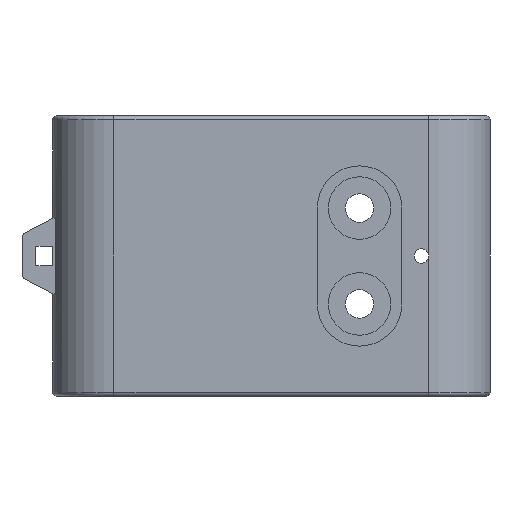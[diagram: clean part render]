
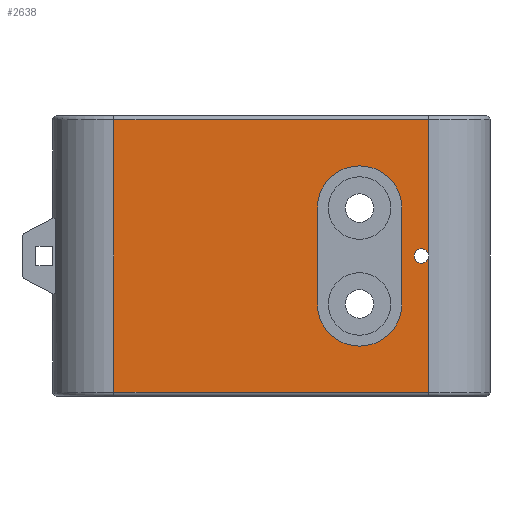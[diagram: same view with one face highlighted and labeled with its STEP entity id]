
A CAD part, front view. The second image highlights one B-rep face of the part: STEP entity #2638.
In plain terms, the highlighted planar face has unit normal (0, -1, 0).
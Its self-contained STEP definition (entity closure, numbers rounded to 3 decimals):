
#1 = DIRECTION ( 'NONE',  ( 0., 0., -1. ) ) ;
#19 = CARTESIAN_POINT ( 'NONE',  ( -20.516, -7.5, -18.25 ) ) ;
#33 = CARTESIAN_POINT ( 'NONE',  ( 6., -7.5, -6.25 ) ) ;
#34 = ORIENTED_EDGE ( 'NONE', *, *, #1594, .T. ) ;
#70 = CARTESIAN_POINT ( 'NONE',  ( 18.6, -7.5, 0. ) ) ;
#84 = VERTEX_POINT ( 'NONE', #70 ) ;
#88 = DIRECTION ( 'NONE',  ( 0., -1., 0. ) ) ;
#120 = PLANE ( 'NONE',  #616 ) ;
#157 = VERTEX_POINT ( 'NONE', #2644 ) ;
#186 = EDGE_LOOP ( 'NONE', ( #2580, #419, #2522, #901 ) ) ;
#187 = CARTESIAN_POINT ( 'NONE',  ( 20.516, -7.5, 17.75 ) ) ;
#196 = DIRECTION ( 'NONE',  ( 0., 0., 1. ) ) ;
#209 = VECTOR ( 'NONE', #2158, 1000. ) ;
#211 = CARTESIAN_POINT ( 'NONE',  ( -20.516, -7.5, -17.75 ) ) ;
#230 = CIRCLE ( 'NONE', #1592, 0.95 ) ;
#264 = VECTOR ( 'NONE', #2285, 1000. ) ;
#293 = EDGE_CURVE ( 'NONE', #157, #2605, #2487, .T. ) ;
#315 = EDGE_CURVE ( 'NONE', #1314, #1736, #1383, .T. ) ;
#322 = EDGE_CURVE ( 'NONE', #1391, #1314, #2014, .T. ) ;
#327 = EDGE_CURVE ( 'NONE', #1436, #1391, #870, .T. ) ;
#334 = EDGE_CURVE ( 'NONE', #1561, #1436, #801, .T. ) ;
#341 = EDGE_CURVE ( 'NONE', #2605, #2017, #2419, .T. ) ;
#353 = EDGE_CURVE ( 'NONE', #710, #157, #732, .T. ) ;
#366 = CARTESIAN_POINT ( 'NONE',  ( -20.516, -7.5, -18.25 ) ) ;
#419 = ORIENTED_EDGE ( 'NONE', *, *, #341, .T. ) ;
#472 = ORIENTED_EDGE ( 'NONE', *, *, #1325, .F. ) ;
#541 = ORIENTED_EDGE ( 'NONE', *, *, #315, .F. ) ;
#616 = AXIS2_PLACEMENT_3D ( 'NONE', #19, #88, #1 ) ;
#710 = VERTEX_POINT ( 'NONE', #211 ) ;
#732 = LINE ( 'NONE', #2053, #1810 ) ;
#780 = FACE_BOUND ( 'NONE', #2630, .T. ) ;
#801 = LINE ( 'NONE', #1852, #1318 ) ;
#825 = CIRCLE ( 'NONE', #1660, 0.95 ) ;
#846 = FACE_OUTER_BOUND ( 'NONE', #186, .T. ) ;
#870 = CIRCLE ( 'NONE', #2654, 5.5 ) ;
#901 = ORIENTED_EDGE ( 'NONE', *, *, #353, .T. ) ;
#978 = CARTESIAN_POINT ( 'NONE',  ( 17., -7.5, 6.25 ) ) ;
#1045 = ORIENTED_EDGE ( 'NONE', *, *, #322, .F. ) ;
#1054 = CARTESIAN_POINT ( 'NONE',  ( 20.5, -7.5, 0. ) ) ;
#1106 = CARTESIAN_POINT ( 'NONE',  ( 19.55, -7.5, 0. ) ) ;
#1262 = DIRECTION ( 'NONE',  ( -1., 0., 0. ) ) ;
#1314 = VERTEX_POINT ( 'NONE', #33 ) ;
#1318 = VECTOR ( 'NONE', #2167, 1000. ) ;
#1325 = EDGE_CURVE ( 'NONE', #1736, #1561, #2051, .T. ) ;
#1382 = DIRECTION ( 'NONE',  ( 0., 1., 0. ) ) ;
#1383 = CIRCLE ( 'NONE', #2670, 5.5 ) ;
#1391 = VERTEX_POINT ( 'NONE', #1666 ) ;
#1436 = VERTEX_POINT ( 'NONE', #978 ) ;
#1457 = CARTESIAN_POINT ( 'NONE',  ( 11.5, -7.5, -11.75 ) ) ;
#1459 = DIRECTION ( 'NONE',  ( 0., 0., -1. ) ) ;
#1561 = VERTEX_POINT ( 'NONE', #2140 ) ;
#1592 = AXIS2_PLACEMENT_3D ( 'NONE', #2460, #1382, #1897 ) ;
#1594 = EDGE_CURVE ( 'NONE', #1770, #84, #825, .T. ) ;
#1606 = VECTOR ( 'NONE', #196, 1000. ) ;
#1634 = EDGE_CURVE ( 'NONE', #84, #1770, #230, .T. ) ;
#1660 = AXIS2_PLACEMENT_3D ( 'NONE', #1106, #1690, #1262 ) ;
#1666 = CARTESIAN_POINT ( 'NONE',  ( 6., -7.5, 6.25 ) ) ;
#1686 = ORIENTED_EDGE ( 'NONE', *, *, #1634, .T. ) ;
#1690 = DIRECTION ( 'NONE',  ( 0., 1., 0. ) ) ;
#1736 = VERTEX_POINT ( 'NONE', #1457 ) ;
#1770 = VERTEX_POINT ( 'NONE', #1054 ) ;
#1810 = VECTOR ( 'NONE', #2021, 1000. ) ;
#1812 = EDGE_CURVE ( 'NONE', #710, #2017, #2163, .T. ) ;
#1837 = CARTESIAN_POINT ( 'NONE',  ( -20.516, -7.5, 17.75 ) ) ;
#1852 = CARTESIAN_POINT ( 'NONE',  ( 17., -7.5, 6.25 ) ) ;
#1897 = DIRECTION ( 'NONE',  ( -1., 0., 0. ) ) ;
#1956 = VECTOR ( 'NONE', #2304, 1000. ) ;
#1967 = EDGE_LOOP ( 'NONE', ( #541, #1045, #2175, #2646, #472 ) ) ;
#1977 = AXIS2_PLACEMENT_3D ( 'NONE', #2056, #2327, #1459 ) ;
#2014 = LINE ( 'NONE', #2207, #264 ) ;
#2017 = VERTEX_POINT ( 'NONE', #1837 ) ;
#2021 = DIRECTION ( 'NONE',  ( 1., 0., 0. ) ) ;
#2051 = CIRCLE ( 'NONE', #1977, 5.5 ) ;
#2053 = CARTESIAN_POINT ( 'NONE',  ( -20.516, -7.5, -17.75 ) ) ;
#2056 = CARTESIAN_POINT ( 'NONE',  ( 11.5, -7.5, -6.25 ) ) ;
#2061 = CARTESIAN_POINT ( 'NONE',  ( -20.516, -7.5, 17.75 ) ) ;
#2072 = DIRECTION ( 'NONE',  ( 0., 0., -1. ) ) ;
#2083 = DIRECTION ( 'NONE',  ( 0., -1., 0. ) ) ;
#2091 = CARTESIAN_POINT ( 'NONE',  ( 11.5, -7.5, 6.25 ) ) ;
#2140 = CARTESIAN_POINT ( 'NONE',  ( 17., -7.5, -6.25 ) ) ;
#2158 = DIRECTION ( 'NONE',  ( -1., 0., 0. ) ) ;
#2163 = LINE ( 'NONE', #366, #1606 ) ;
#2167 = DIRECTION ( 'NONE',  ( 0., 0., 1. ) ) ;
#2172 = DIRECTION ( 'NONE',  ( 0., 0., -1. ) ) ;
#2175 = ORIENTED_EDGE ( 'NONE', *, *, #327, .F. ) ;
#2179 = DIRECTION ( 'NONE',  ( 0., -1., 0. ) ) ;
#2184 = FACE_BOUND ( 'NONE', #1967, .T. ) ;
#2187 = CARTESIAN_POINT ( 'NONE',  ( 11.5, -7.5, -6.25 ) ) ;
#2207 = CARTESIAN_POINT ( 'NONE',  ( 6., -7.5, 6.25 ) ) ;
#2285 = DIRECTION ( 'NONE',  ( 0., 0., -1. ) ) ;
#2304 = DIRECTION ( 'NONE',  ( 0., 0., 1. ) ) ;
#2327 = DIRECTION ( 'NONE',  ( 0., -1., 0. ) ) ;
#2417 = CARTESIAN_POINT ( 'NONE',  ( 20.516, -7.5, -18.25 ) ) ;
#2419 = LINE ( 'NONE', #2061, #209 ) ;
#2460 = CARTESIAN_POINT ( 'NONE',  ( 19.55, -7.5, 0. ) ) ;
#2487 = LINE ( 'NONE', #2417, #1956 ) ;
#2522 = ORIENTED_EDGE ( 'NONE', *, *, #1812, .F. ) ;
#2580 = ORIENTED_EDGE ( 'NONE', *, *, #293, .T. ) ;
#2605 = VERTEX_POINT ( 'NONE', #187 ) ;
#2630 = EDGE_LOOP ( 'NONE', ( #1686, #34 ) ) ;
#2638 = ADVANCED_FACE ( 'NONE', ( #780, #2184, #846 ), #120, .T. ) ;
#2644 = CARTESIAN_POINT ( 'NONE',  ( 20.516, -7.5, -17.75 ) ) ;
#2646 = ORIENTED_EDGE ( 'NONE', *, *, #334, .F. ) ;
#2654 = AXIS2_PLACEMENT_3D ( 'NONE', #2091, #2083, #2072 ) ;
#2670 = AXIS2_PLACEMENT_3D ( 'NONE', #2187, #2179, #2172 ) ;
